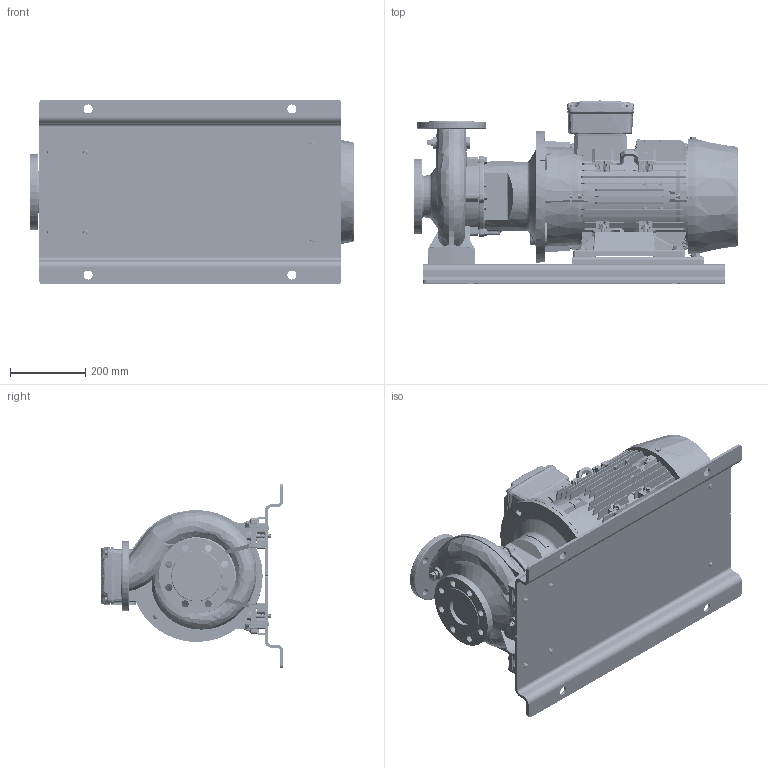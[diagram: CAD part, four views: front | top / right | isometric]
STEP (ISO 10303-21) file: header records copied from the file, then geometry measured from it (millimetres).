
FILE_DESCRIPTION (( 'STEP AP214' ), '1' );
FILE_NAME ('GSD2 65-160_11.0, 15.0 & 18.5_(160ML)_W21_BP.STEP', '2024-07-08T02:57:20', ( '' ), ( '' ), 'SwSTEP 2.0', 'SolidWorks 2019', '' );
FILE_SCHEMA (( 'AUTOMOTIVE_DESIGN' ));
Length unit declared in the file: millimetre
Products named in the file (19): Parametric bolt and washer_SFT-A301B; Parametric bolt and washer_SFT-A309B; Parametric bolt_SFT-A301B; N5S3 GSDA-534 F1-1832925-00; 160M_L_ALIE3_W21T_B35; CGS11-5311_2_3_4_5_CGS11-5311; 65-160-160M_L_______; Parametric bolt_SFT-A309B; 210_254 x 20 - 271472113; Parametric Flat Washer_M12; GSD2  65-160_11.0, 15.0 & 18.5_(160ML)_W21_BP
Assembly tree (37 placements, depth 3):
  GSD2  65-160_11.0, 15.0 & 18.5_(160ML)_W21_BP
    65-160-160M_L_______
    N5S3 GSDA-534 F1-1832925-00
    210_254 x 20 - 271472113  x2
    CGS11-5311_2_3_4_5_CGS11-5311  x2
    Parametric bolt and washer_SFT-A309B
      Parametric bolt_SFT-A309B
      Parametric Flat Washer_M12
    Parametric bolt and washer_SFT-A309B
      Parametric bolt_SFT-A309B
      Parametric Flat Washer_M12
    Parametric bolt and washer_SFT-A309B
      Parametric bolt_SFT-A309B
      Parametric Flat Washer_M12
    Parametric bolt and washer_SFT-A309B
      Parametric bolt_SFT-A309B
      Parametric Flat Washer_M12
    Parametric bolt and washer_SFT-A301B
      Parametric bolt_SFT-A301B
      Parametric Flat Washer_M12
    Parametric bolt and washer_SFT-A301B
      Parametric bolt_SFT-A301B
      Parametric Flat Washer_M12
    Parametric bolt and washer_SFT-A301B
      Parametric bolt_SFT-A301B
      Parametric Flat Washer_M12
    Parametric bolt and washer_SFT-A301B
      Parametric bolt_SFT-A301B
      Parametric Flat Washer_M12
    Parametric bolt and washer_SFT-A301B
      Parametric bolt_SFT-A301B
      Parametric Flat Washer_M12
    Parametric bolt and washer_SFT-A301B
      Parametric bolt_SFT-A301B
      Parametric Flat Washer_M12
    160M_L_ALIE3_W21T_B35
Bounding box: 860.3 x 484.53 x 490 mm (x, y, z)
Volume: 48155726.4 mm3; surface area: 3815596.8 mm2
Topology: 56 solids, 62 shells, 6110 faces, 15813 edges, 10241 vertices
Faces by surface type: plane 3692, cylinder 1210, cone 531, bspline 429, torus 232, sphere 16
Entity records: 267363 total; most frequent: CARTESIAN_POINT 84138, ORIENTED_EDGE 28838, DIRECTION 24524, EDGE_CURVE 14419, VERTEX_POINT 9345, LINE 9316, VECTOR 9316, AXIS2_PLACEMENT_3D 7604
